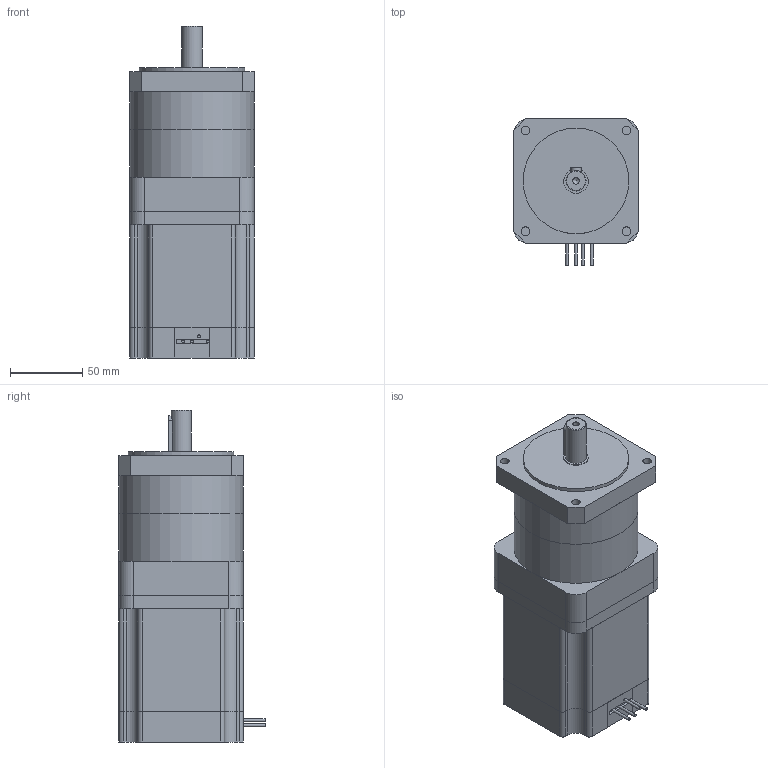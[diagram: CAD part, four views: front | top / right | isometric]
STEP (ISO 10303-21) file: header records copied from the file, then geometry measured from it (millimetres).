
FILE_DESCRIPTION(/* description */ (''),/* implementation_level */ '2;1');
FILE_NAME(/* name */ 'T86PG025-D60-04101.stp',/* time_stamp */ '2018-08-29T15:17:44+08:00',/* author */ (''),/* organization */ (''),/* preprocessor_version */ 'ST-DEVELOPER v11',/* originating_system */ 'SIEMENS UGS NX 6.0',/* authorisation */ '');
FILE_SCHEMA (('CONFIG_CONTROL_DESIGN'));
Length unit declared in the file: millimetre
Products named in the file (1): T86PG015-D60-04101
Bounding box: 86 x 101 x 229.5 mm (x, y, z)
Volume: 1321133.8 mm3; surface area: 146612.7 mm2
Topology: 6 solids, 6 shells, 125 faces, 318 edges, 211 vertices
Faces by surface type: plane 76, cylinder 47, cone 1, torus 1
Full cylindrical faces by diameter (mm): 2 x4, 4.5 x1, 6 x4, 14 x1, 73 x1, 86 x2
Entity records: 3772 total; most frequent: CARTESIAN_POINT 657, DIRECTION 645, ORIENTED_EDGE 592, EDGE_CURVE 296, AXIS2_PLACEMENT_3D 224, VERTEX_POINT 205, LINE 197, VECTOR 197
